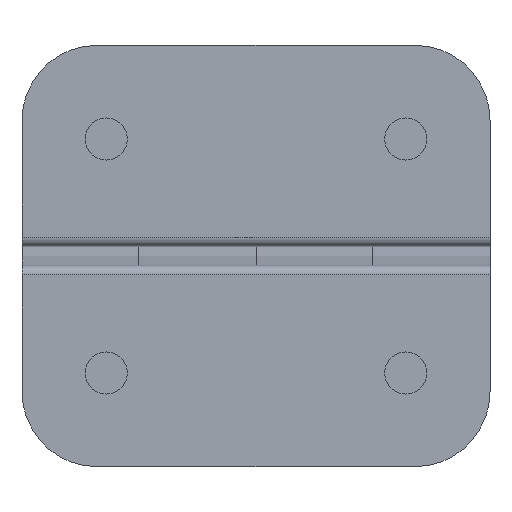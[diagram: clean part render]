
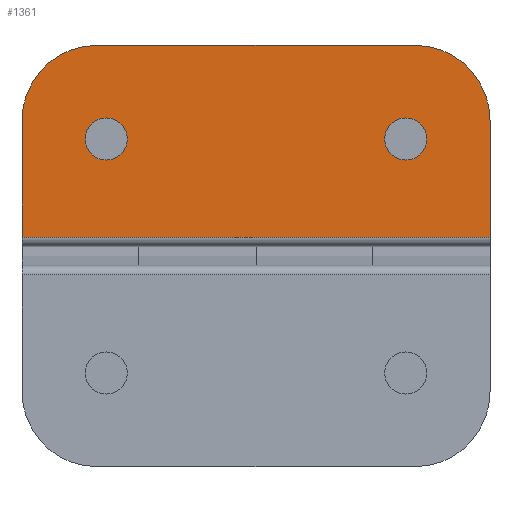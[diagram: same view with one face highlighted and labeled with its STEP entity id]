
A CAD part, front view. The second image highlights one B-rep face of the part: STEP entity #1361.
In plain terms, the highlighted planar face has unit normal (0, -1, 0).
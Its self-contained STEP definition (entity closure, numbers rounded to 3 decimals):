
#2 = CARTESIAN_POINT ( 'NONE',  ( 0., 0., 25. ) ) ;
#24 = EDGE_CURVE ( 'NONE', #987, #81, #2567, .T. ) ;
#25 = VERTEX_POINT ( 'NONE', #578 ) ;
#30 = AXIS2_PLACEMENT_3D ( 'NONE', #2558, #157, #129 ) ;
#74 = VERTEX_POINT ( 'NONE', #2422 ) ;
#81 = VERTEX_POINT ( 'NONE', #1415 ) ;
#94 = EDGE_CURVE ( 'NONE', #987, #533, #398, .T. ) ;
#129 = DIRECTION ( 'NONE',  ( 0., 0., -1. ) ) ;
#150 = ORIENTED_EDGE ( 'NONE', *, *, #24, .T. ) ;
#157 = DIRECTION ( 'NONE',  ( 0., -1., 0. ) ) ;
#186 = VECTOR ( 'NONE', #2319, 1000. ) ;
#194 = PLANE ( 'NONE',  #237 ) ;
#237 = AXIS2_PLACEMENT_3D ( 'NONE', #2, #1618, #1552 ) ;
#251 = ORIENTED_EDGE ( 'NONE', *, *, #1738, .F. ) ;
#316 = FACE_BOUND ( 'NONE', #817, .T. ) ;
#327 = LINE ( 'NONE', #1113, #735 ) ;
#353 = VECTOR ( 'NONE', #1040, 1000. ) ;
#398 = CIRCLE ( 'NONE', #1669, 8. ) ;
#438 = VECTOR ( 'NONE', #1367, 1000. ) ;
#533 = VERTEX_POINT ( 'NONE', #561 ) ;
#535 = CARTESIAN_POINT ( 'NONE',  ( 0., 0., -25. ) ) ;
#561 = CARTESIAN_POINT ( 'NONE',  ( 0., 0., -17. ) ) ;
#574 = AXIS2_PLACEMENT_3D ( 'NONE', #2110, #719, #1539 ) ;
#575 = AXIS2_PLACEMENT_3D ( 'NONE', #715, #1068, #1081 ) ;
#578 = CARTESIAN_POINT ( 'NONE',  ( 10., 0., 13.75 ) ) ;
#585 = EDGE_CURVE ( 'NONE', #652, #81, #891, .T. ) ;
#652 = VERTEX_POINT ( 'NONE', #1516 ) ;
#670 = DIRECTION ( 'NONE',  ( 0., 0., -1. ) ) ;
#715 = CARTESIAN_POINT ( 'NONE',  ( 10., 0., 16. ) ) ;
#719 = DIRECTION ( 'NONE',  ( 0., 1., 0. ) ) ;
#735 = VECTOR ( 'NONE', #1130, 1000. ) ;
#744 = ORIENTED_EDGE ( 'NONE', *, *, #94, .F. ) ;
#817 = EDGE_LOOP ( 'NONE', ( #2471, #2174 ) ) ;
#891 = LINE ( 'NONE', #2514, #186 ) ;
#951 = AXIS2_PLACEMENT_3D ( 'NONE', #2272, #1661, #1255 ) ;
#987 = VERTEX_POINT ( 'NONE', #2546 ) ;
#988 = AXIS2_PLACEMENT_3D ( 'NONE', #2479, #1853, #670 ) ;
#1002 = CIRCLE ( 'NONE', #30, 2.25 ) ;
#1008 = FACE_BOUND ( 'NONE', #1540, .T. ) ;
#1040 = DIRECTION ( 'NONE',  ( 0., 0., -1. ) ) ;
#1068 = DIRECTION ( 'NONE',  ( 0., 1., 0. ) ) ;
#1081 = DIRECTION ( 'NONE',  ( 0., 0., 1. ) ) ;
#1113 = CARTESIAN_POINT ( 'NONE',  ( 0., 0., 25. ) ) ;
#1119 = CIRCLE ( 'NONE', #574, 8. ) ;
#1130 = DIRECTION ( 'NONE',  ( 1., 0., 0. ) ) ;
#1152 = CARTESIAN_POINT ( 'NONE',  ( 8., 0., 25. ) ) ;
#1211 = CARTESIAN_POINT ( 'NONE',  ( 0., 0., 17. ) ) ;
#1214 = EDGE_CURVE ( 'NONE', #74, #25, #1581, .T. ) ;
#1255 = DIRECTION ( 'NONE',  ( 0., 0., 1. ) ) ;
#1361 = ADVANCED_FACE ( 'PLANAR_3', ( #1604, #316, #1008 ), #194, .F. ) ;
#1367 = DIRECTION ( 'NONE',  ( 1., 0., 0. ) ) ;
#1377 = CARTESIAN_POINT ( 'NONE',  ( 8., 0., -17. ) ) ;
#1393 = VERTEX_POINT ( 'NONE', #1211 ) ;
#1415 = CARTESIAN_POINT ( 'NONE',  ( 20.5, 0., -25. ) ) ;
#1423 = CIRCLE ( 'NONE', #988, 2.25 ) ;
#1446 = LINE ( 'NONE', #2252, #353 ) ;
#1484 = EDGE_CURVE ( 'NONE', #2360, #2289, #1423, .T. ) ;
#1487 = EDGE_LOOP ( 'NONE', ( #150, #2126, #251, #1929, #1567, #744 ) ) ;
#1516 = CARTESIAN_POINT ( 'NONE',  ( 20.5, 0., 25. ) ) ;
#1539 = DIRECTION ( 'NONE',  ( 0., 0., 1. ) ) ;
#1540 = EDGE_LOOP ( 'NONE', ( #1782, #1925 ) ) ;
#1552 = DIRECTION ( 'NONE',  ( 0., 0., 1. ) ) ;
#1567 = ORIENTED_EDGE ( 'NONE', *, *, #2046, .T. ) ;
#1581 = CIRCLE ( 'NONE', #575, 2.25 ) ;
#1604 = FACE_OUTER_BOUND ( 'NONE', #1487, .T. ) ;
#1618 = DIRECTION ( 'NONE',  ( 0., 1., 0. ) ) ;
#1623 = CARTESIAN_POINT ( 'NONE',  ( 10., 0., -18.25 ) ) ;
#1661 = DIRECTION ( 'NONE',  ( 0., 1., 0. ) ) ;
#1669 = AXIS2_PLACEMENT_3D ( 'NONE', #1377, #2386, #2217 ) ;
#1738 = EDGE_CURVE ( 'NONE', #2274, #652, #327, .T. ) ;
#1763 = CARTESIAN_POINT ( 'NONE',  ( 10., 0., -13.75 ) ) ;
#1782 = ORIENTED_EDGE ( 'NONE', *, *, #1484, .F. ) ;
#1853 = DIRECTION ( 'NONE',  ( 0., -1., 0. ) ) ;
#1918 = CIRCLE ( 'NONE', #951, 2.25 ) ;
#1925 = ORIENTED_EDGE ( 'NONE', *, *, #2579, .F. ) ;
#1929 = ORIENTED_EDGE ( 'NONE', *, *, #2117, .F. ) ;
#2046 = EDGE_CURVE ( 'NONE', #1393, #533, #1446, .T. ) ;
#2110 = CARTESIAN_POINT ( 'NONE',  ( 8., 0., 17. ) ) ;
#2117 = EDGE_CURVE ( 'NONE', #1393, #2274, #1119, .T. ) ;
#2126 = ORIENTED_EDGE ( 'NONE', *, *, #585, .F. ) ;
#2174 = ORIENTED_EDGE ( 'NONE', *, *, #2373, .T. ) ;
#2217 = DIRECTION ( 'NONE',  ( 0., 0., 1. ) ) ;
#2252 = CARTESIAN_POINT ( 'NONE',  ( 0., 0., 25. ) ) ;
#2272 = CARTESIAN_POINT ( 'NONE',  ( 10., 0., 16. ) ) ;
#2274 = VERTEX_POINT ( 'NONE', #1152 ) ;
#2289 = VERTEX_POINT ( 'NONE', #1763 ) ;
#2319 = DIRECTION ( 'NONE',  ( 0., 0., -1. ) ) ;
#2360 = VERTEX_POINT ( 'NONE', #1623 ) ;
#2373 = EDGE_CURVE ( 'NONE', #25, #74, #1918, .T. ) ;
#2386 = DIRECTION ( 'NONE',  ( 0., 1., 0. ) ) ;
#2422 = CARTESIAN_POINT ( 'NONE',  ( 10., 0., 18.25 ) ) ;
#2471 = ORIENTED_EDGE ( 'NONE', *, *, #1214, .T. ) ;
#2479 = CARTESIAN_POINT ( 'NONE',  ( 10., 0., -16. ) ) ;
#2514 = CARTESIAN_POINT ( 'NONE',  ( 20.5, 0., 25. ) ) ;
#2546 = CARTESIAN_POINT ( 'NONE',  ( 8., 0., -25. ) ) ;
#2558 = CARTESIAN_POINT ( 'NONE',  ( 10., 0., -16. ) ) ;
#2567 = LINE ( 'NONE', #535, #438 ) ;
#2579 = EDGE_CURVE ( 'NONE', #2289, #2360, #1002, .T. ) ;
